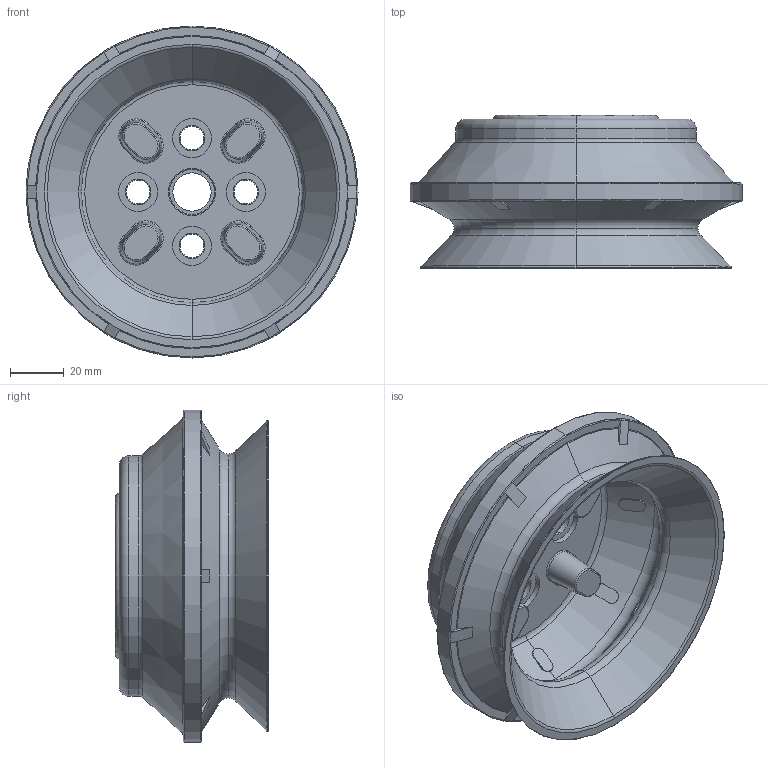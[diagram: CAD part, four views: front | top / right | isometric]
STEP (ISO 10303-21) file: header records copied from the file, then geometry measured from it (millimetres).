
FILE_DESCRIPTION (( 'STEP AP203' ), '1' );
FILE_NAME ('PBG_110--A.STEP', '2019-09-25T11:38:46', ( '' ), ( '' ), 'SwSTEP 2.0', 'SolidWorks 2016', '' );
FILE_SCHEMA (( 'CONFIG_CONTROL_DESIGN' ));
Length unit declared in the file: millimetre
Products named in the file (1): PBG_110--A
Bounding box: 123.3 x 56.84 x 123.3 mm (x, y, z)
Volume: 143724 mm3; surface area: 78991.7 mm2
Topology: 2 solids, 2 shells, 290 faces, 724 edges, 459 vertices
Faces by surface type: plane 109, cylinder 88, torus 41, bspline 40, cone 12
Entity records: 13489 total; most frequent: CARTESIAN_POINT 6792, ORIENTED_EDGE 1448, DIRECTION 1274, EDGE_CURVE 724, AXIS2_PLACEMENT_3D 515, VERTEX_POINT 459, EDGE_LOOP 339, ADVANCED_FACE 290
